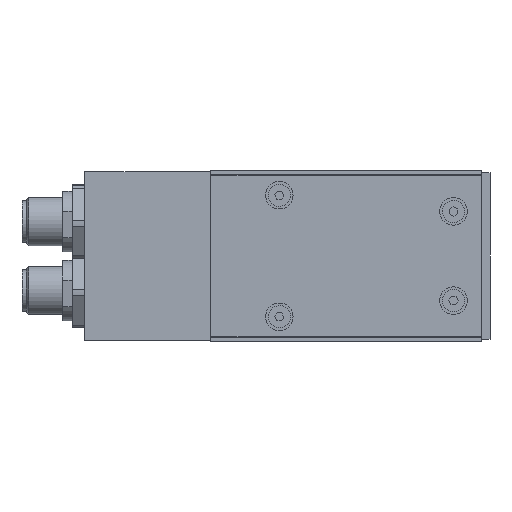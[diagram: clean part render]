
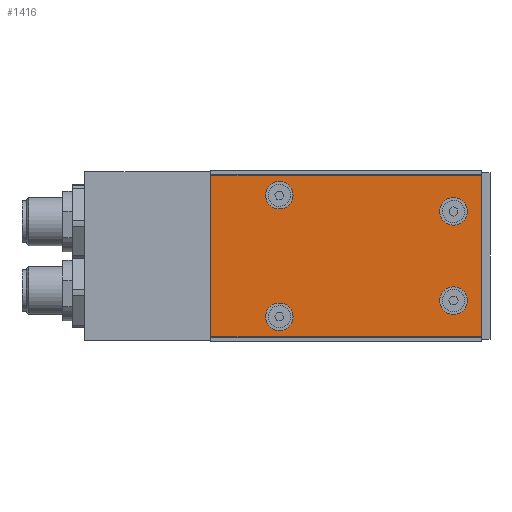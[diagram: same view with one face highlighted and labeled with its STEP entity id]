
A CAD part, front view. The second image highlights one B-rep face of the part: STEP entity #1416.
In plain terms, the highlighted planar face has unit normal (0, -1, 0).
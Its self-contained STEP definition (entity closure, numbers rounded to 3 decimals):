
#43 = ORIENTED_EDGE ( 'NONE', *, *, #8993, .F. ) ;
#285 = ORIENTED_EDGE ( 'NONE', *, *, #2874, .F. ) ;
#306 = VERTEX_POINT ( 'NONE', #5412 ) ;
#336 = ORIENTED_EDGE ( 'NONE', *, *, #8827, .F. ) ;
#344 = VERTEX_POINT ( 'NONE', #5471 ) ;
#401 = ORIENTED_EDGE ( 'NONE', *, *, #9046, .T. ) ;
#474 = ORIENTED_EDGE ( 'NONE', *, *, #9121, .T. ) ;
#480 = VERTEX_POINT ( 'NONE', #5603 ) ;
#570 = VERTEX_POINT ( 'NONE', #5499 ) ;
#618 = VERTEX_POINT ( 'NONE', #5414 ) ;
#663 = ORIENTED_EDGE ( 'NONE', *, *, #8978, .F. ) ;
#689 = VERTEX_POINT ( 'NONE', #5494 ) ;
#690 = VERTEX_POINT ( 'NONE', #5420 ) ;
#836 = ORIENTED_EDGE ( 'NONE', *, *, #3083, .T. ) ;
#851 = VERTEX_POINT ( 'NONE', #5724 ) ;
#857 = VERTEX_POINT ( 'NONE', #5518 ) ;
#859 = ORIENTED_EDGE ( 'NONE', *, *, #8992, .F. ) ;
#901 = ORIENTED_EDGE ( 'NONE', *, *, #8791, .F. ) ;
#952 = ORIENTED_EDGE ( 'NONE', *, *, #8452, .F. ) ;
#989 = VERTEX_POINT ( 'NONE', #1273 ) ;
#1020 = ORIENTED_EDGE ( 'NONE', *, *, #3072, .F. ) ;
#1043 = VERTEX_POINT ( 'NONE', #1215 ) ;
#1080 = ORIENTED_EDGE ( 'NONE', *, *, #8536, .T. ) ;
#1097 = VERTEX_POINT ( 'NONE', #1214 ) ;
#1214 = CARTESIAN_POINT ( 'NONE',  ( 17., 0.05, 2.6 ) ) ;
#1215 = CARTESIAN_POINT ( 'NONE',  ( 17., 0.05, 39.4 ) ) ;
#1273 = CARTESIAN_POINT ( 'NONE',  ( 60., 0.05, 28.6 ) ) ;
#1416 = ADVANCED_FACE ( 'NONE', ( #9838, #9984, #9539, #9688, #10157 ), #10806, .F. ) ;
#1988 = DIRECTION ( 'NONE',  ( 0., -1., 0. ) ) ;
#1999 = CARTESIAN_POINT ( 'NONE',  ( 60., 0.05, 32. ) ) ;
#2000 = DIRECTION ( 'NONE',  ( 0., 0., -1. ) ) ;
#2433 = DIRECTION ( 'NONE',  ( 0., 0., -1. ) ) ;
#2434 = CARTESIAN_POINT ( 'NONE',  ( 17., 0.05, 6. ) ) ;
#2436 = DIRECTION ( 'NONE',  ( 0., -1., 0. ) ) ;
#2531 = DIRECTION ( 'NONE',  ( 0., -1., 0. ) ) ;
#2534 = DIRECTION ( 'NONE',  ( 0., 0., -1. ) ) ;
#2536 = CARTESIAN_POINT ( 'NONE',  ( 17., 0.05, 6. ) ) ;
#2673 = CARTESIAN_POINT ( 'NONE',  ( 60., 0.05, 10. ) ) ;
#2674 = DIRECTION ( 'NONE',  ( 0., -1., 0. ) ) ;
#2675 = DIRECTION ( 'NONE',  ( 0., 0., -1. ) ) ;
#2691 = CARTESIAN_POINT ( 'NONE',  ( 17., 0.05, 36. ) ) ;
#2692 = DIRECTION ( 'NONE',  ( 0., -1., 0. ) ) ;
#2693 = DIRECTION ( 'NONE',  ( 0., 0., -1. ) ) ;
#2766 = CARTESIAN_POINT ( 'NONE',  ( 67., 0.05, 40.98 ) ) ;
#2767 = DIRECTION ( 'NONE',  ( 0., 0., 1. ) ) ;
#2874 = EDGE_CURVE ( 'NONE', #570, #989, #10054, .T. ) ;
#2998 = AXIS2_PLACEMENT_3D ( 'NONE', #10606, #10810, #10540 ) ;
#3072 = EDGE_CURVE ( 'NONE', #1043, #306, #9761, .T. ) ;
#3083 = EDGE_CURVE ( 'NONE', #851, #618, #9990, .T. ) ;
#3331 = AXIS2_PLACEMENT_3D ( 'NONE', #12138, #12145, #12146 ) ;
#3390 = AXIS2_PLACEMENT_3D ( 'NONE', #12401, #12344, #12392 ) ;
#3499 = AXIS2_PLACEMENT_3D ( 'NONE', #7117, #7124, #7123 ) ;
#3652 = AXIS2_PLACEMENT_3D ( 'NONE', #2536, #2531, #2534 ) ;
#3674 = AXIS2_PLACEMENT_3D ( 'NONE', #2434, #2436, #2433 ) ;
#3730 = AXIS2_PLACEMENT_3D ( 'NONE', #2673, #2674, #2675 ) ;
#3734 = AXIS2_PLACEMENT_3D ( 'NONE', #2691, #1988, #2000 ) ;
#3735 = AXIS2_PLACEMENT_3D ( 'NONE', #1999, #2692, #2693 ) ;
#4600 = LINE ( 'NONE', #9331, #4663 ) ;
#4663 = VECTOR ( 'NONE', #9255, 1000. ) ;
#4672 = VECTOR ( 'NONE', #2767, 1000. ) ;
#4829 = LINE ( 'NONE', #2766, #4672 ) ;
#5053 = CIRCLE ( 'NONE', #3734, 3.4 ) ;
#5189 = CIRCLE ( 'NONE', #3730, 3.4 ) ;
#5270 = CIRCLE ( 'NONE', #3735, 3.4 ) ;
#5351 = CIRCLE ( 'NONE', #3674, 3.4 ) ;
#5380 = CIRCLE ( 'NONE', #3652, 3.4 ) ;
#5412 = CARTESIAN_POINT ( 'NONE',  ( 17., 0.05, 32.6 ) ) ;
#5414 = CARTESIAN_POINT ( 'NONE',  ( 0.12, 0.05, 1.02 ) ) ;
#5420 = CARTESIAN_POINT ( 'NONE',  ( 67., 0.05, 40.98 ) ) ;
#5471 = CARTESIAN_POINT ( 'NONE',  ( 60., 0.05, 13.4 ) ) ;
#5494 = CARTESIAN_POINT ( 'NONE',  ( 17., 0.05, 9.4 ) ) ;
#5499 = CARTESIAN_POINT ( 'NONE',  ( 60., 0.05, 35.4 ) ) ;
#5518 = CARTESIAN_POINT ( 'NONE',  ( 60., 0.05, 6.6 ) ) ;
#5603 = CARTESIAN_POINT ( 'NONE',  ( 67., 0.05, 1.02 ) ) ;
#5724 = CARTESIAN_POINT ( 'NONE',  ( 0.12, 0.05, 40.98 ) ) ;
#7117 = CARTESIAN_POINT ( 'NONE',  ( 60., 0.05, 10. ) ) ;
#7123 = DIRECTION ( 'NONE',  ( 0., 0., -1. ) ) ;
#7124 = DIRECTION ( 'NONE',  ( 0., -1., 0. ) ) ;
#7175 = CARTESIAN_POINT ( 'NONE',  ( 67., 0.05, 1.02 ) ) ;
#7185 = DIRECTION ( 'NONE',  ( 1., 0., 0. ) ) ;
#8452 = EDGE_CURVE ( 'NONE', #344, #857, #11067, .T. ) ;
#8536 = EDGE_CURVE ( 'NONE', #618, #480, #10883, .T. ) ;
#8791 = EDGE_CURVE ( 'NONE', #689, #1097, #5380, .T. ) ;
#8827 = EDGE_CURVE ( 'NONE', #1097, #689, #5351, .T. ) ;
#8978 = EDGE_CURVE ( 'NONE', #857, #344, #5189, .T. ) ;
#8992 = EDGE_CURVE ( 'NONE', #306, #1043, #5053, .T. ) ;
#8993 = EDGE_CURVE ( 'NONE', #989, #570, #5270, .T. ) ;
#9046 = EDGE_CURVE ( 'NONE', #480, #690, #4829, .T. ) ;
#9121 = EDGE_CURVE ( 'NONE', #690, #851, #4600, .T. ) ;
#9255 = DIRECTION ( 'NONE',  ( -1., 0., 0. ) ) ;
#9331 = CARTESIAN_POINT ( 'NONE',  ( 67., 0.05, 40.98 ) ) ;
#9539 = FACE_BOUND ( 'NONE', #13226, .T. ) ;
#9688 = FACE_BOUND ( 'NONE', #13041, .T. ) ;
#9761 = CIRCLE ( 'NONE', #3390, 3.4 ) ;
#9838 = FACE_BOUND ( 'NONE', #12725, .T. ) ;
#9984 = FACE_BOUND ( 'NONE', #13120, .T. ) ;
#9990 = LINE ( 'NONE', #12518, #10112 ) ;
#10054 = CIRCLE ( 'NONE', #3331, 3.4 ) ;
#10112 = VECTOR ( 'NONE', #12509, 1000. ) ;
#10157 = FACE_OUTER_BOUND ( 'NONE', #13012, .T. ) ;
#10540 = DIRECTION ( 'NONE',  ( 0., 0., 1. ) ) ;
#10606 = CARTESIAN_POINT ( 'NONE',  ( 0., 0.05, 0. ) ) ;
#10806 = PLANE ( 'NONE',  #2998 ) ;
#10810 = DIRECTION ( 'NONE',  ( 0., 1., 0. ) ) ;
#10883 = LINE ( 'NONE', #7175, #11333 ) ;
#11067 = CIRCLE ( 'NONE', #3499, 3.4 ) ;
#11333 = VECTOR ( 'NONE', #7185, 1000. ) ;
#12138 = CARTESIAN_POINT ( 'NONE',  ( 60., 0.05, 32. ) ) ;
#12145 = DIRECTION ( 'NONE',  ( 0., -1., 0. ) ) ;
#12146 = DIRECTION ( 'NONE',  ( 0., 0., -1. ) ) ;
#12344 = DIRECTION ( 'NONE',  ( 0., -1., 0. ) ) ;
#12392 = DIRECTION ( 'NONE',  ( 0., 0., -1. ) ) ;
#12401 = CARTESIAN_POINT ( 'NONE',  ( 17., 0.05, 36. ) ) ;
#12509 = DIRECTION ( 'NONE',  ( 0., 0., -1. ) ) ;
#12518 = CARTESIAN_POINT ( 'NONE',  ( 0.12, 0.05, 40.98 ) ) ;
#12725 = EDGE_LOOP ( 'NONE', ( #336, #901 ) ) ;
#13012 = EDGE_LOOP ( 'NONE', ( #401, #474, #836, #1080 ) ) ;
#13041 = EDGE_LOOP ( 'NONE', ( #43, #285 ) ) ;
#13120 = EDGE_LOOP ( 'NONE', ( #859, #1020 ) ) ;
#13226 = EDGE_LOOP ( 'NONE', ( #663, #952 ) ) ;
